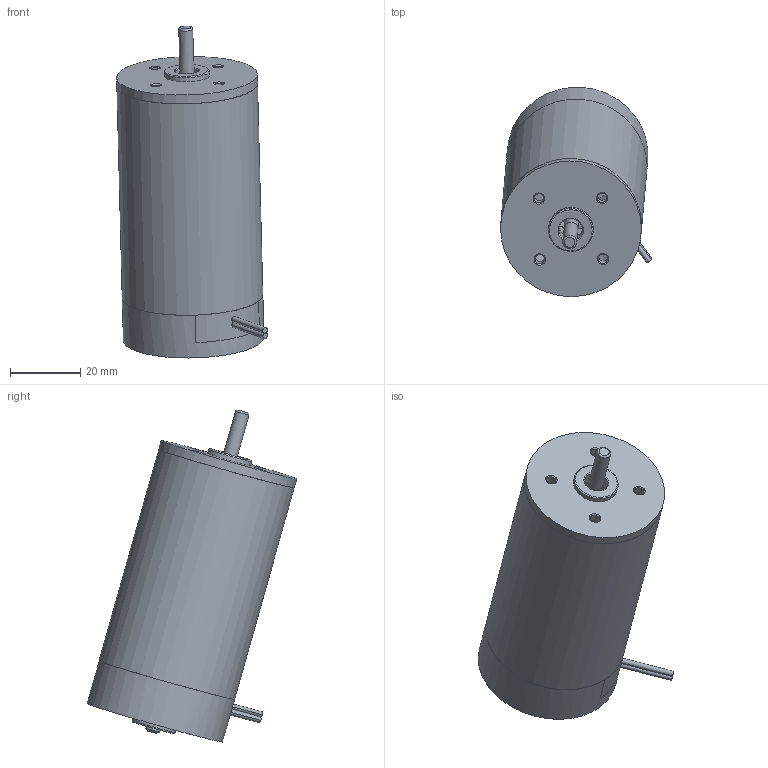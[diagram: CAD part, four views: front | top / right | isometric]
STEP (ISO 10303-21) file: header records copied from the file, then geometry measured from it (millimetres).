
FILE_DESCRIPTION(/* description */ (''),/* implementation_level */ '2;1');
FILE_NAME(/* name */ 'Z:\새 폴더\Compact Type RM4_3D\RM46ㅁBL.stp',/* time_stamp */ '2022-04-05T16:23:25+09:00',/* author */ ('umbro'),/* organization */ (''),/* preprocessor_version */ 'ST-DEVELOPER v17',/* originating_system */ 'Autodesk Inventor 2019',/* authorisation */ '');
FILE_SCHEMA (('AUTOMOTIVE_DESIGN { 1 0 10303 214 3 1 1 }'));
Length unit declared in the file: millimetre
Products named in the file (8): RM46ㅁBL; RM4TYPE_FRONT_HOUSING_; RM4TYPE_PIPE_HOUSING_pi40XL62.4; RM46TYPE_SHAFT; AS 1427 Z - 미터 M3.5 x 5; REAR_HOUSING__ASS'Y_LEAD; RM4TYPE_BRUSH_BRAKET_LEAD; RM4TYPE_REAR_HOUSING
Assembly tree (7 placements, depth 2):
  RM46ㅁBL
    RM4TYPE_FRONT_HOUSING_
    RM4TYPE_PIPE_HOUSING_pi40XL62.4
    RM46TYPE_SHAFT
    AS 1427 Z - 미터 M3.5 x 5  x2
  REAR_HOUSING__ASS'Y_LEAD
    RM4TYPE_BRUSH_BRAKET_LEAD
    RM4TYPE_REAR_HOUSING
Bounding box: 42.85 x 59.52 x 94.26 mm (x, y, z)
Volume: 25636.2 mm3; surface area: 25622.2 mm2
Topology: 9 solids, 9 shells, 152 faces, 379 edges, 248 vertices
Faces by surface type: plane 65, cone 44, cylinder 32, torus 11
Full cylindrical faces by diameter (mm): 2.7 x4, 2.8 x4, 3.132 x2, 3.5 x2, 3.7 x2, 3.969 x1, 4 x1, 6.1 x2, 6.5 x1, 6.65 x1, 12.7 x2, 36.5 x1, 40 x3
Entity records: 3776 total; most frequent: CARTESIAN_POINT 784, DIRECTION 607, ORIENTED_EDGE 528, EDGE_CURVE 264, AXIS2_PLACEMENT_3D 252, VERTEX_POINT 173, EDGE_LOOP 141, CIRCLE 117
